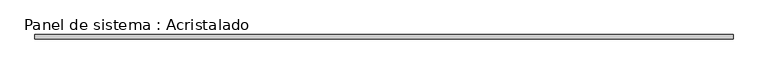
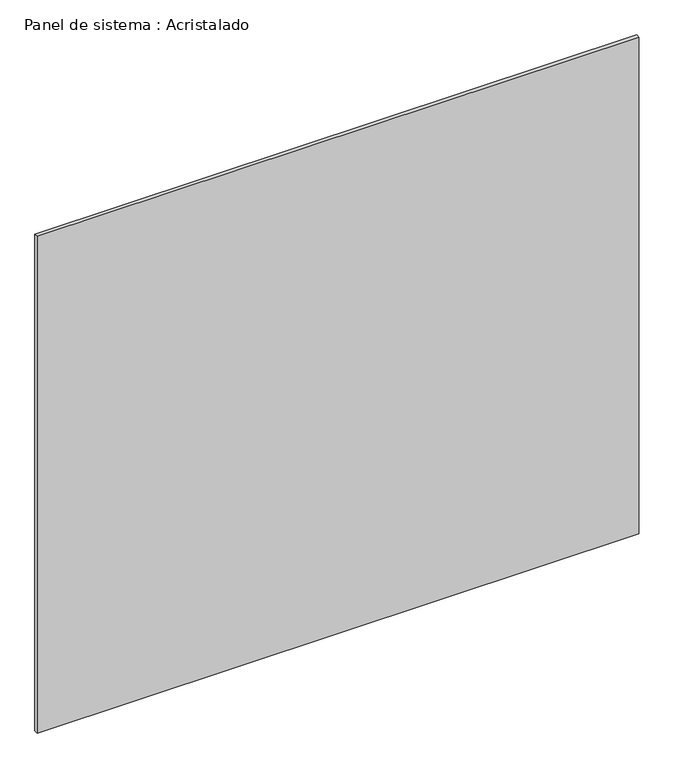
"""IFC4 building model written with IfcOpenShell, lengths in millimetres: plate geometry, Panel de sistema : Acristalado."""

from ifc_helpers import new_model, si_unit, origin, origin_with_axes, place, context, project, spatial, polyline, outline, extrude, source, transform, mapped, element, save


def panel_de_sistema_acristalado_258ec6b1(model_context):
    return source(origin(), model_context, "Body", "SweptSolid", [
        extrude(outline(polyline([(1615.6616379, -10.0), (-1615.6616379, -10.0), (-1615.6616379, 10.0), (1615.6616379, 10.0), (1615.6616379, -10.0)])), origin_with_axes(), (0.0, 0.0, 1.0), 2820.0),
    ])


if __name__ == "__main__":
    model = new_model("IFC4")
    model_context = context("Model", 3, world=origin())
    ifc_project = project(units=[si_unit("LENGTHUNIT", "METRE", prefix="MILLI")], contexts=[model_context])
    site = spatial("IfcSite", under=ifc_project)
    building = spatial("IfcBuilding", under=site)
    placement = place(None, origin())
    panel_de_sistema_acristalado_shape = panel_de_sistema_acristalado_258ec6b1(model_context)
    element("IfcPlate", 1, ObjectType="Panel de sistema : Acristalado", at=placement, inside=building, context=model_context, shape_type="MappedRepresentation", body=[
        mapped(panel_de_sistema_acristalado_shape, transform((0.0, 0.0, 0.0), x_axis=(1.0, 0.0, 0.0), y_axis=(0.0, 1.0, 0.0), z_axis=(0.0, 0.0, 1.0))),
    ])
    save(model, "model.ifc")
